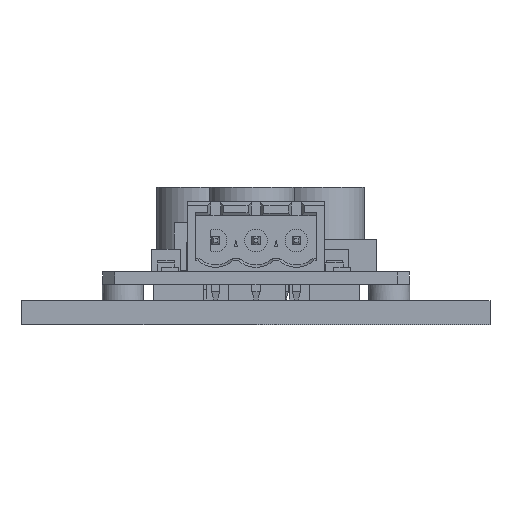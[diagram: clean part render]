
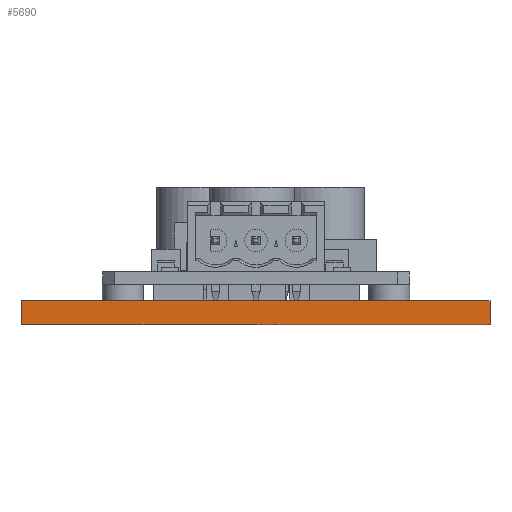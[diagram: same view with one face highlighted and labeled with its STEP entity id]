
A CAD part, left-side view. The second image highlights one B-rep face of the part: STEP entity #5690.
In plain terms, the highlighted planar face has unit normal (-1, 0, 0).
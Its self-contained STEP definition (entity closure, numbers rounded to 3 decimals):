
#265=FACE_OUTER_BOUND('',#7071,.T.);
#1139=PLANE('',#17673);
#1918=LINE('',#23470,#3560);
#1931=LINE('',#23530,#3573);
#1938=LINE('',#23544,#3580);
#1952=LINE('',#23594,#3594);
#3560=VECTOR('',#19012,1.);
#3573=VECTOR('',#19051,1.);
#3580=VECTOR('',#19062,1.);
#3594=VECTOR('',#19102,1.);
#5690=ADVANCED_FACE('BS',(#265),#1139,.T.);
#7071=EDGE_LOOP('',(#8389,#8390,#8391,#8392));
#8389=ORIENTED_EDGE('',*,*,#14921,.T.);
#8390=ORIENTED_EDGE('',*,*,#14892,.T.);
#8391=ORIENTED_EDGE('',*,*,#14869,.T.);
#8392=ORIENTED_EDGE('',*,*,#14899,.F.);
#13220=VERTEX_POINT('',#23469);
#13221=VERTEX_POINT('',#23471);
#13239=VERTEX_POINT('',#23531);
#13243=VERTEX_POINT('',#23543);
#14869=EDGE_CURVE('',#13221,#13220,#1918,.T.);
#14892=EDGE_CURVE('',#13239,#13221,#1931,.T.);
#14899=EDGE_CURVE('',#13243,#13220,#1938,.T.);
#14921=EDGE_CURVE('',#13243,#13239,#1952,.T.);
#17673=AXIS2_PLACEMENT_3D('',#23624,#19130,#19131);
#19012=DIRECTION('',(0.,1.,0.));
#19051=DIRECTION('',(0.,0.,1.));
#19062=DIRECTION('',(0.,0.,1.));
#19102=DIRECTION('',(0.,-1.,0.));
#19130=DIRECTION('',(-1.,0.,0.));
#19131=DIRECTION('',(0.,0.,-1.));
#23469=CARTESIAN_POINT('',(-32.5,29.,0.));
#23470=CARTESIAN_POINT('',(-32.5,0.,0.));
#23471=CARTESIAN_POINT('',(-32.5,-29.,0.));
#23530=CARTESIAN_POINT('',(-32.5,-29.,-3.));
#23531=CARTESIAN_POINT('',(-32.5,-29.,-3.));
#23543=CARTESIAN_POINT('',(-32.5,29.,-3.));
#23544=CARTESIAN_POINT('',(-32.5,29.,-3.));
#23594=CARTESIAN_POINT('',(-32.5,0.,-3.));
#23624=CARTESIAN_POINT('',(-32.5,0.,-3.));
